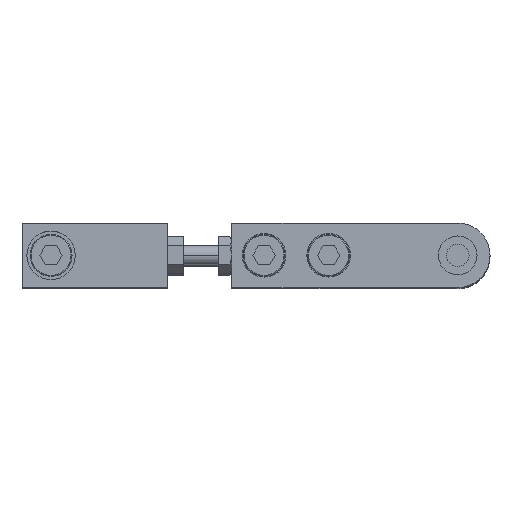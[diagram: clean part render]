
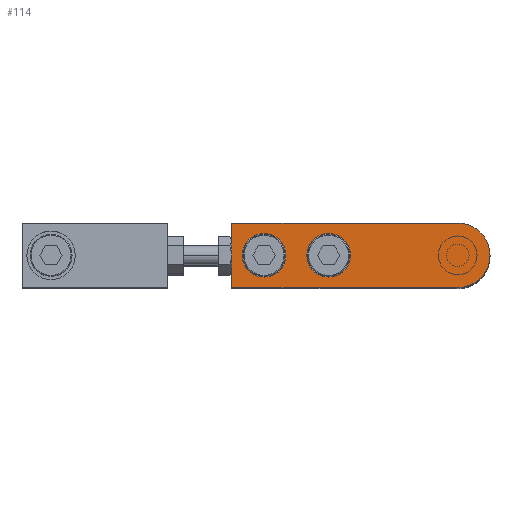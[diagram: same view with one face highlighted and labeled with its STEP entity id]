
A CAD part, top view. The second image highlights one B-rep face of the part: STEP entity #114.
In plain terms, the highlighted planar face has unit normal (0, 0, 1) as drawn and (0, 0, -1) by its records, which use the part's own axes.
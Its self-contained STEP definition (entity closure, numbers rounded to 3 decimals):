
#20 = CARTESIAN_POINT ( 'NONE',  ( 33.25, 0., -5. ) ) ;
#62 = DIRECTION ( 'NONE',  ( 1., 0., 0. ) ) ;
#114 = ADVANCED_FACE ( 'NONE', ( #4490, #6977, #2372 ), #7596, .F. ) ;
#210 = DIRECTION ( 'NONE',  ( 1., 0., 0. ) ) ;
#238 = VERTEX_POINT ( 'NONE', #1782 ) ;
#247 = CIRCLE ( 'NONE', #6650, 6.75 ) ;
#248 = ORIENTED_EDGE ( 'NONE', *, *, #3765, .F. ) ;
#385 = DIRECTION ( 'NONE',  ( 0., 0., 1. ) ) ;
#435 = DIRECTION ( 'NONE',  ( -1., 0., 0. ) ) ;
#497 = AXIS2_PLACEMENT_3D ( 'NONE', #5731, #2299, #1638 ) ;
#619 = EDGE_LOOP ( 'NONE', ( #3116, #4669 ) ) ;
#658 = VERTEX_POINT ( 'NONE', #3879 ) ;
#672 = VECTOR ( 'NONE', #5435, 1000. ) ;
#819 = EDGE_LOOP ( 'NONE', ( #6590, #3285, #2770, #248, #5446 ) ) ;
#841 = EDGE_CURVE ( 'NONE', #658, #1684, #2527, .T. ) ;
#866 = ORIENTED_EDGE ( 'NONE', *, *, #1774, .F. ) ;
#899 = CARTESIAN_POINT ( 'NONE',  ( 0., 0., -5. ) ) ;
#971 = DIRECTION ( 'NONE',  ( -1., 0., 0. ) ) ;
#981 = EDGE_CURVE ( 'NONE', #1759, #6001, #247, .T. ) ;
#991 = AXIS2_PLACEMENT_3D ( 'NONE', #5931, #2396, #62 ) ;
#1062 = DIRECTION ( 'NONE',  ( 0., 0., -1. ) ) ;
#1397 = CIRCLE ( 'NONE', #6048, 6.75 ) ;
#1478 = LINE ( 'NONE', #2569, #3318 ) ;
#1498 = CIRCLE ( 'NONE', #3985, 10. ) ;
#1527 = VERTEX_POINT ( 'NONE', #5019 ) ;
#1638 = DIRECTION ( 'NONE',  ( 1., 0., 0. ) ) ;
#1684 = VERTEX_POINT ( 'NONE', #3425 ) ;
#1759 = VERTEX_POINT ( 'NONE', #20 ) ;
#1765 = VECTOR ( 'NONE', #210, 1000. ) ;
#1774 = EDGE_CURVE ( 'NONE', #4210, #6163, #6645, .T. ) ;
#1782 = CARTESIAN_POINT ( 'NONE',  ( 70., -10., -5. ) ) ;
#1892 = DIRECTION ( 'NONE',  ( -1., 0., 0. ) ) ;
#1919 = CARTESIAN_POINT ( 'NONE',  ( 46.75, 0., -5. ) ) ;
#2023 = EDGE_CURVE ( 'NONE', #6163, #4210, #1397, .T. ) ;
#2083 = DIRECTION ( 'NONE',  ( -1., 0., 0. ) ) ;
#2120 = DIRECTION ( 'NONE',  ( 1., 0., 0. ) ) ;
#2299 = DIRECTION ( 'NONE',  ( 0., 0., 1. ) ) ;
#2301 = ORIENTED_EDGE ( 'NONE', *, *, #2023, .F. ) ;
#2372 = FACE_OUTER_BOUND ( 'NONE', #819, .T. ) ;
#2396 = DIRECTION ( 'NONE',  ( 0., 0., 1. ) ) ;
#2476 = CARTESIAN_POINT ( 'NONE',  ( 70., 10., -5. ) ) ;
#2527 = CIRCLE ( 'NONE', #991, 10. ) ;
#2569 = CARTESIAN_POINT ( 'NONE',  ( 0., 10., -5. ) ) ;
#2576 = CARTESIAN_POINT ( 'NONE',  ( 40., 0., -5. ) ) ;
#2770 = ORIENTED_EDGE ( 'NONE', *, *, #4865, .F. ) ;
#3116 = ORIENTED_EDGE ( 'NONE', *, *, #981, .F. ) ;
#3228 = AXIS2_PLACEMENT_3D ( 'NONE', #4634, #1062, #435 ) ;
#3285 = ORIENTED_EDGE ( 'NONE', *, *, #5253, .F. ) ;
#3318 = VECTOR ( 'NONE', #4918, 1000. ) ;
#3425 = CARTESIAN_POINT ( 'NONE',  ( -10., 0., -5. ) ) ;
#3675 = LINE ( 'NONE', #2476, #672 ) ;
#3684 = LINE ( 'NONE', #3691, #1765 ) ;
#3691 = CARTESIAN_POINT ( 'NONE',  ( 0., -10., -5. ) ) ;
#3765 = EDGE_CURVE ( 'NONE', #1527, #238, #3684, .T. ) ;
#3834 = VERTEX_POINT ( 'NONE', #4259 ) ;
#3866 = CIRCLE ( 'NONE', #3228, 6.75 ) ;
#3879 = CARTESIAN_POINT ( 'NONE',  ( 0., 10., -5. ) ) ;
#3985 = AXIS2_PLACEMENT_3D ( 'NONE', #899, #385, #2120 ) ;
#4168 = CARTESIAN_POINT ( 'NONE',  ( 53.25, 0., -5. ) ) ;
#4210 = VERTEX_POINT ( 'NONE', #4168 ) ;
#4259 = CARTESIAN_POINT ( 'NONE',  ( 70., 10., -5. ) ) ;
#4476 = CARTESIAN_POINT ( 'NONE',  ( 60., 0., -5. ) ) ;
#4490 = FACE_BOUND ( 'NONE', #4868, .T. ) ;
#4634 = CARTESIAN_POINT ( 'NONE',  ( 40., 0., -5. ) ) ;
#4669 = ORIENTED_EDGE ( 'NONE', *, *, #4672, .F. ) ;
#4672 = EDGE_CURVE ( 'NONE', #6001, #1759, #3866, .T. ) ;
#4865 = EDGE_CURVE ( 'NONE', #238, #3834, #3675, .T. ) ;
#4868 = EDGE_LOOP ( 'NONE', ( #866, #2301 ) ) ;
#4918 = DIRECTION ( 'NONE',  ( -1., 0., 0. ) ) ;
#5019 = CARTESIAN_POINT ( 'NONE',  ( 0., -10., -5. ) ) ;
#5253 = EDGE_CURVE ( 'NONE', #3834, #658, #1478, .T. ) ;
#5435 = DIRECTION ( 'NONE',  ( 0., 1., 0. ) ) ;
#5446 = ORIENTED_EDGE ( 'NONE', *, *, #6683, .F. ) ;
#5637 = DIRECTION ( 'NONE',  ( 0., 0., -1. ) ) ;
#5731 = CARTESIAN_POINT ( 'NONE',  ( 0., 0., -5. ) ) ;
#5931 = CARTESIAN_POINT ( 'NONE',  ( 0., 0., -5. ) ) ;
#6001 = VERTEX_POINT ( 'NONE', #1919 ) ;
#6048 = AXIS2_PLACEMENT_3D ( 'NONE', #4476, #5637, #971 ) ;
#6059 = DIRECTION ( 'NONE',  ( 0., 0., -1. ) ) ;
#6163 = VERTEX_POINT ( 'NONE', #6164 ) ;
#6164 = CARTESIAN_POINT ( 'NONE',  ( 66.75, 0., -5. ) ) ;
#6441 = DIRECTION ( 'NONE',  ( 0., 0., -1. ) ) ;
#6590 = ORIENTED_EDGE ( 'NONE', *, *, #841, .F. ) ;
#6645 = CIRCLE ( 'NONE', #6852, 6.75 ) ;
#6650 = AXIS2_PLACEMENT_3D ( 'NONE', #2576, #6059, #1892 ) ;
#6683 = EDGE_CURVE ( 'NONE', #1684, #1527, #1498, .T. ) ;
#6852 = AXIS2_PLACEMENT_3D ( 'NONE', #7014, #6441, #2083 ) ;
#6977 = FACE_BOUND ( 'NONE', #619, .T. ) ;
#7014 = CARTESIAN_POINT ( 'NONE',  ( 60., 0., -5. ) ) ;
#7596 = PLANE ( 'NONE',  #497 ) ;
